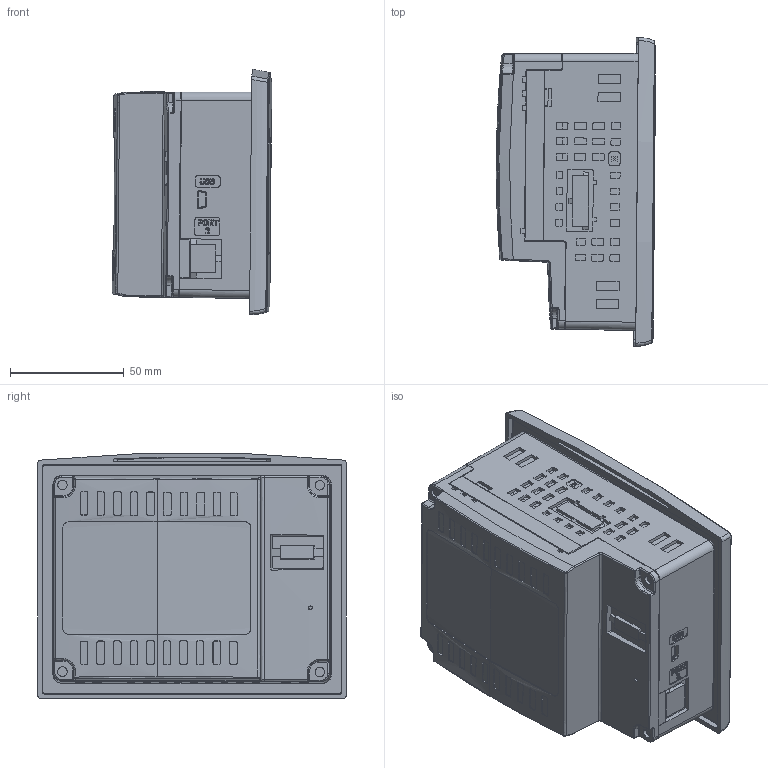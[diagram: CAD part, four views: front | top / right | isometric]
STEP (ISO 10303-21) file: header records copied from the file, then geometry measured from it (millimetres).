
FILE_DESCRIPTION (( 'STEP AP214' ), '1' );
FILE_NAME ('SM43.STEP', '2014-10-21T11:53:43', ( 'dell' ), ( '' ), 'SwSTEP 2.0', 'SolidWorks 2011', '' );
FILE_SCHEMA (( 'AUTOMOTIVE_DESIGN' ));
Length unit declared in the file: millimetre
Products named in the file (1): SM43
Bounding box: 70.22 x 136 x 108.02 mm (x, y, z)
Volume: 695725.5 mm3; surface area: 72266.2 mm2
Topology: 1 solids, 9 shells, 1749 faces, 4668 edges, 3062 vertices
Faces by surface type: plane 985, cylinder 423, bspline 194, cone 126, sphere 12, torus 9
Entity records: 60698 total; most frequent: CARTESIAN_POINT 20734, ORIENTED_EDGE 9332, DIRECTION 6839, EDGE_CURVE 4666, VERTEX_POINT 3062, VECTOR 2923, LINE 2923, AXIS2_PLACEMENT_3D 1958
